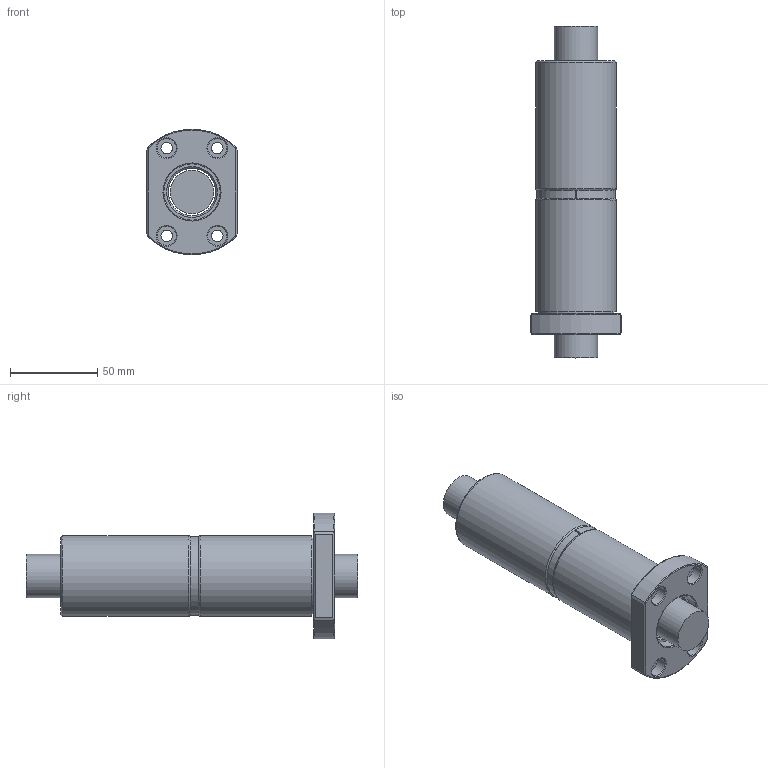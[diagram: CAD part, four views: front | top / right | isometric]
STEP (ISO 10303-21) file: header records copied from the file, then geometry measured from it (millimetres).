
FILE_DESCRIPTION(/* description */ (''),/* implementation_level */ '2;1');
FILE_NAME(/* name */ '2510.prt.step',/* time_stamp */ '2008-12-05T09:21:28+08:00',/* author */ (''),/* organization */ (''),/* preprocessor_version */ 'ST-DEVELOPER v11',/* originating_system */ 'SIEMENS UGS NX 6.0',/* authorisation */ '');
FILE_SCHEMA (('AUTOMOTIVE_DESIGN { 1 0 10303 214 1 1 1 1 }'));
Length unit declared in the file: millimetre
Products named in the file (1): 2510
Bounding box: 52 x 190 x 71.73 mm (x, y, z)
Volume: 275357.3 mm3; surface area: 64121.3 mm2
Topology: 5 solids, 5 shells, 93 faces, 198 edges, 131 vertices
Faces by surface type: plane 40, cylinder 34, cone 10, torus 9
Full cylindrical faces by diameter (mm): 2.1 x8, 6.5 x4, 11 x4, 24.95 x1, 27 x2, 31 x2, 32.3 x3, 35.6 x1, 44 x1, 46 x2
Entity records: 2506 total; most frequent: CARTESIAN_POINT 596, DIRECTION 402, ORIENTED_EDGE 286, AXIS2_PLACEMENT_3D 181, EDGE_LOOP 172, EDGE_CURVE 143, FACE_BOUND 142, VERTEX_POINT 119
